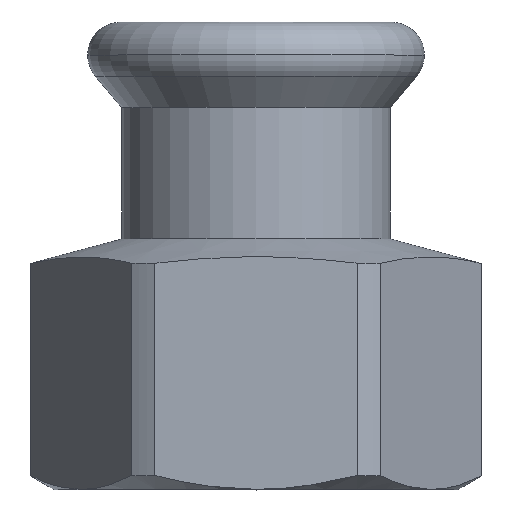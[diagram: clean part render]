
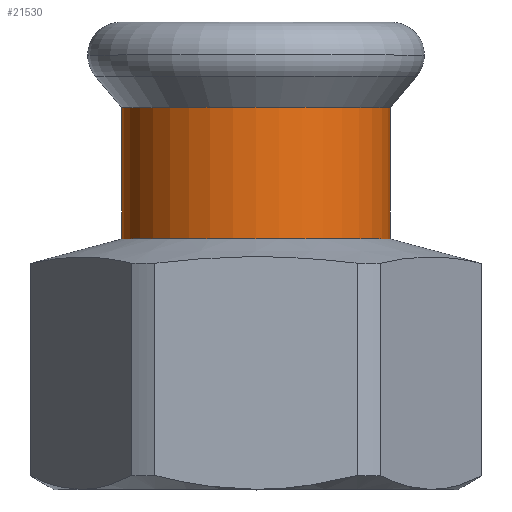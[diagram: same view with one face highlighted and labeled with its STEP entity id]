
A CAD part, top view. The second image highlights one B-rep face of the part: STEP entity #21530.
In plain terms, the highlighted cylindrical face has radius 12.65 mm (diameter 25.3 mm), a partial arc.
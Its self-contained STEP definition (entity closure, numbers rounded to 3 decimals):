
#3220=CARTESIAN_POINT('',(291.097,50.196,
0.));
#3230=VERTEX_POINT('',#3220);
#4720=CARTESIAN_POINT('',(265.797,50.196,0.));
#4730=VERTEX_POINT('',#4720);
#4760=CARTESIAN_POINT('',(278.447,50.196,0.));
#4770=DIRECTION('',(0.,-1.,0.));
#4780=DIRECTION('',(-1.,0.,0.));
#4790=AXIS2_PLACEMENT_3D('',#4760,#4770,#4780);
#4800=CIRCLE('',#4790,12.65);
#4810=EDGE_CURVE('',#3230,#4730,#4800,.T.);
#20980=CARTESIAN_POINT('',(291.097,62.568,0.));
#20990=VERTEX_POINT('',#20980);
#21170=CARTESIAN_POINT('',(265.797,62.568,
0.));
#21180=VERTEX_POINT('',#21170);
#21210=CARTESIAN_POINT('',(278.447,62.568,0.));
#21220=DIRECTION('',(0.,1.,0.));
#21230=DIRECTION('',(-1.,0.,0.));
#21240=AXIS2_PLACEMENT_3D('',#21210,#21220,#21230);
#21250=CIRCLE('',#21240,12.65);
#21310=CARTESIAN_POINT('',(278.447,55.816,0.));
#21320=DIRECTION('',(0.,-1.,0.));
#21330=DIRECTION('',(-1.,0.,0.));
#21340=AXIS2_PLACEMENT_3D('',#21310,#21320,#21330);
#21350=CYLINDRICAL_SURFACE('',#21340,12.65);
#21360=CARTESIAN_POINT('',(265.797,55.816,0.));
#21370=DIRECTION('',(0.,-1.,0.));
#21380=VECTOR('',#21370,1.);
#21390=LINE('',#21360,#21380);
#21400=EDGE_CURVE('',#21180,#4730,#21390,.T.);
#21410=ORIENTED_EDGE('',*,*,#21400,.T.);
#21420=EDGE_CURVE('',#21180,#20990,#21250,.T.);
#21430=ORIENTED_EDGE('',*,*,#21420,.F.);
#21440=CARTESIAN_POINT('',(291.097,55.816,
0.));
#21450=DIRECTION('',(0.,-1.,0.));
#21460=VECTOR('',#21450,1.);
#21470=LINE('',#21440,#21460);
#21480=EDGE_CURVE('',#20990,#3230,#21470,.T.);
#21490=ORIENTED_EDGE('',*,*,#21480,.F.);
#21500=ORIENTED_EDGE('',*,*,#4810,.F.);
#21510=EDGE_LOOP('',(#21500,#21490,#21430,#21410));
#21520=FACE_OUTER_BOUND('',#21510,.T.);
#21530=ADVANCED_FACE('',(#21520),#21350,.T.);
